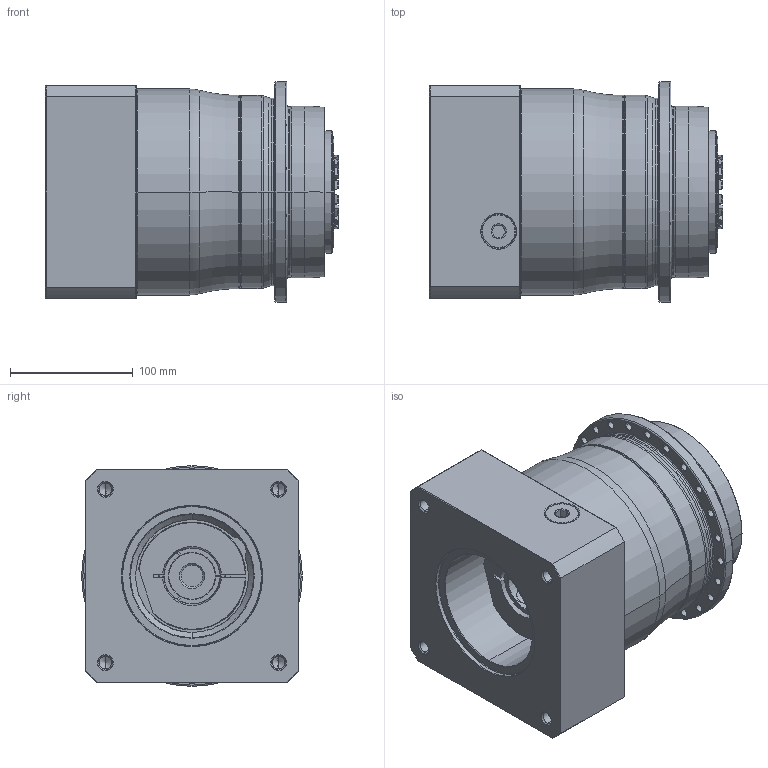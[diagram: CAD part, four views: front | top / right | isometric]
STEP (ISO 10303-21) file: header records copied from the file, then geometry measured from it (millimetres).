
FILE_DESCRIPTION((''),'2;1');
FILE_NAME('APC140_2ST_38-P0409910201_ASM','2018-06-28T',('d01226'),(''),'PRO/ENGINEER BY PARAMETRIC TECHNOLOGY CORPORATION, 2008410','PRO/ENGINEER BY PARAMETRIC TECHNOLOGY CORPORATION, 2008410','');
FILE_SCHEMA(('CONFIG_CONTROL_DESIGN'));
Length unit declared in the file: millimetre
Products named in the file (9): P0278501003; P03595D0103; P1317510501; P0503900012; P0912455001; P1211500001; P0409910201; 21711422019; APC140_2ST_38-P0409910201_ASM
Assembly tree (8 placements, depth 2):
  APC140_2ST_38-P0409910201_ASM
    P0278501003
    P03595D0103
    P1317510501
    P0503900012
    P0912455001
    P1211500001
    P0409910201
    21711422019
Bounding box: 239.1 x 180 x 180 mm (x, y, z)
Volume: 4553046.3 mm3; surface area: 431405 mm2
Topology: 9 solids, 19 shells, 676 faces, 1626 edges, 991 vertices
Faces by surface type: cone 226, cylinder 212, plane 123, torus 101, bspline 14
Entity records: 25058 total; most frequent: CARTESIAN_POINT 8887, DIRECTION 3615, ORIENTED_EDGE 3174, EDGE_CURVE 1608, AXIS2_PLACEMENT_3D 1568, VERTEX_POINT 991, CIRCLE 879, EDGE_LOOP 781
